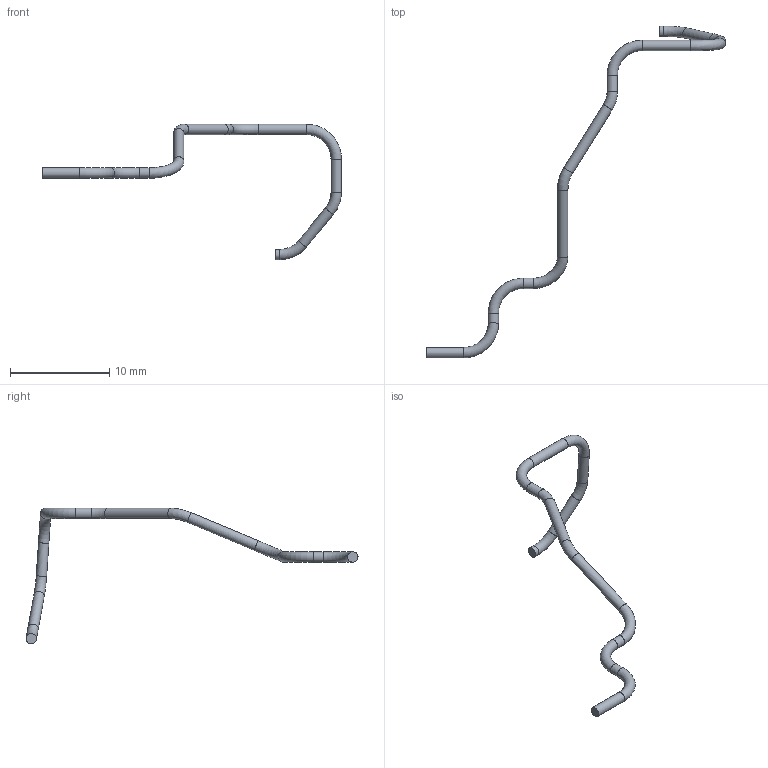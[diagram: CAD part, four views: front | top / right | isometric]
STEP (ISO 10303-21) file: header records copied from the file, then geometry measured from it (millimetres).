
FILE_DESCRIPTION(('Open CASCADE Model'),'2;1');
FILE_NAME('Open CASCADE Shape Model','2026-09-15T14:26:47',('Author'),( 'Open CASCADE'),'Open CASCADE STEP processor 7.7','Open CASCADE 7.7' ,'Unknown');
FILE_SCHEMA(('AUTOMOTIVE_DESIGN { 1 0 10303 214 1 1 1 1 }'));
Length unit declared in the file: millimetre
Products named in the file (1): J9_PIN_4_CONTROL_LEAD_OD1p05_R3
Bounding box: 30.17 x 33.51 x 13.69 mm (x, y, z)
Volume: 58.3 mm3; surface area: 223.7 mm2
Topology: 1 solids, 1 shells, 21 faces, 39 edges, 20 vertices
Faces by surface type: cylinder 10, torus 9, plane 2
Full cylindrical faces by diameter (mm): 1.05 x10
Entity records: 998 total; most frequent: CARTESIAN_POINT 196, DIRECTION 153, ORIENTED_EDGE 78, PCURVE 78, DEFINITIONAL_REPRESENTATION 78, AXIS2_PLACEMENT_3D 51, LINE 49, VECTOR 49
